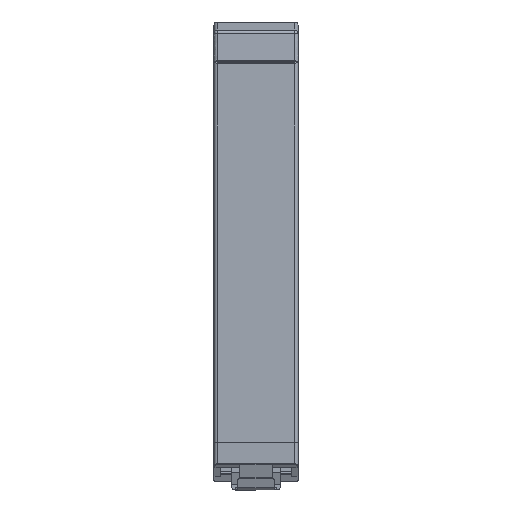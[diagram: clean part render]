
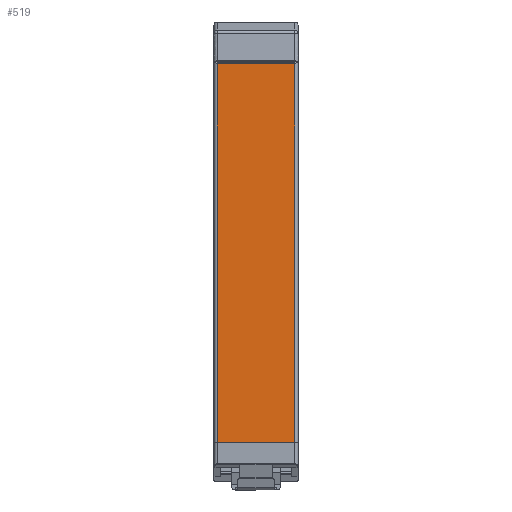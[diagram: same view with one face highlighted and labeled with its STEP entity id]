
A CAD part, front view. The second image highlights one B-rep face of the part: STEP entity #519.
In plain terms, the highlighted planar face has unit normal (0, -1, 0).
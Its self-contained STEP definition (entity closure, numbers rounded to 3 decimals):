
#245 = EDGE_CURVE ( 'NONE', #4718, #5290, #7854, .T. ) ;
#519 = ADVANCED_FACE ( 'NONE', ( #6683 ), #6487, .T. ) ;
#758 = VECTOR ( 'NONE', #1752, 1000. ) ;
#1285 = EDGE_CURVE ( 'NONE', #7946, #5290, #5199, .T. ) ;
#1557 = DIRECTION ( 'NONE',  ( 0., -1., 0. ) ) ;
#1622 = LINE ( 'NONE', #8599, #758 ) ;
#1752 = DIRECTION ( 'NONE',  ( -1., 0., 0. ) ) ;
#2106 = CARTESIAN_POINT ( 'NONE',  ( 11.5, -100., 127.3 ) ) ;
#2742 = ORIENTED_EDGE ( 'NONE', *, *, #7570, .F. ) ;
#3495 = ORIENTED_EDGE ( 'NONE', *, *, #1285, .F. ) ;
#3789 = ORIENTED_EDGE ( 'NONE', *, *, #6085, .T. ) ;
#4099 = DIRECTION ( 'NONE',  ( 0., 0., -1. ) ) ;
#4718 = VERTEX_POINT ( 'NONE', #8840 ) ;
#4805 = VECTOR ( 'NONE', #12219, 1000. ) ;
#5199 = LINE ( 'NONE', #12028, #4805 ) ;
#5290 = VERTEX_POINT ( 'NONE', #10267 ) ;
#5809 = VECTOR ( 'NONE', #4099, 1000. ) ;
#6053 = DIRECTION ( 'NONE',  ( 0., 0., -1. ) ) ;
#6085 = EDGE_CURVE ( 'NONE', #9739, #4718, #1622, .T. ) ;
#6487 = PLANE ( 'NONE',  #8486 ) ;
#6683 = FACE_OUTER_BOUND ( 'NONE', #10078, .T. ) ;
#6857 = ORIENTED_EDGE ( 'NONE', *, *, #245, .T. ) ;
#7570 = EDGE_CURVE ( 'NONE', #9739, #7946, #7984, .T. ) ;
#7638 = DIRECTION ( 'NONE',  ( 0., 0., -1. ) ) ;
#7854 = LINE ( 'NONE', #10751, #5809 ) ;
#7946 = VERTEX_POINT ( 'NONE', #10996 ) ;
#7984 = LINE ( 'NONE', #2106, #10896 ) ;
#8486 = AXIS2_PLACEMENT_3D ( 'NONE', #10403, #1557, #7638 ) ;
#8599 = CARTESIAN_POINT ( 'NONE',  ( -12.5, -100., 126.8 ) ) ;
#8840 = CARTESIAN_POINT ( 'NONE',  ( -11.5, -100., 126.8 ) ) ;
#9739 = VERTEX_POINT ( 'NONE', #12033 ) ;
#10078 = EDGE_LOOP ( 'NONE', ( #2742, #3789, #6857, #3495 ) ) ;
#10267 = CARTESIAN_POINT ( 'NONE',  ( -11.5, -100., 14.041 ) ) ;
#10403 = CARTESIAN_POINT ( 'NONE',  ( -12.5, -100., 0.8 ) ) ;
#10751 = CARTESIAN_POINT ( 'NONE',  ( -11.5, -100., 127.3 ) ) ;
#10896 = VECTOR ( 'NONE', #6053, 1000. ) ;
#10996 = CARTESIAN_POINT ( 'NONE',  ( 11.5, -100., 14.041 ) ) ;
#12028 = CARTESIAN_POINT ( 'NONE',  ( 11.5, -100., 14.041 ) ) ;
#12033 = CARTESIAN_POINT ( 'NONE',  ( 11.5, -100., 126.8 ) ) ;
#12219 = DIRECTION ( 'NONE',  ( -1., 0., 0. ) ) ;
